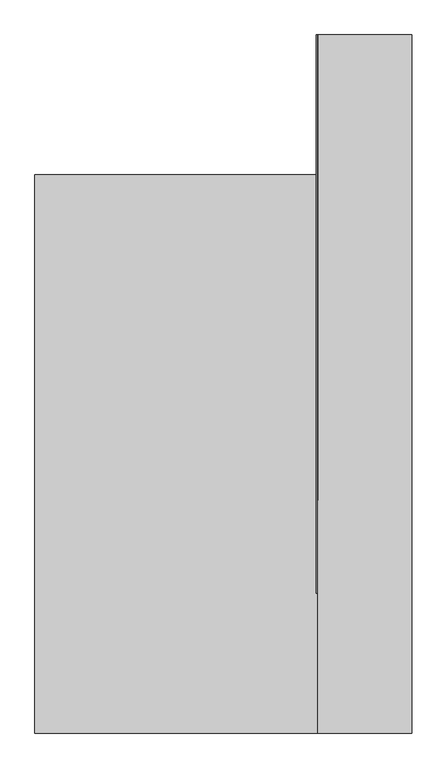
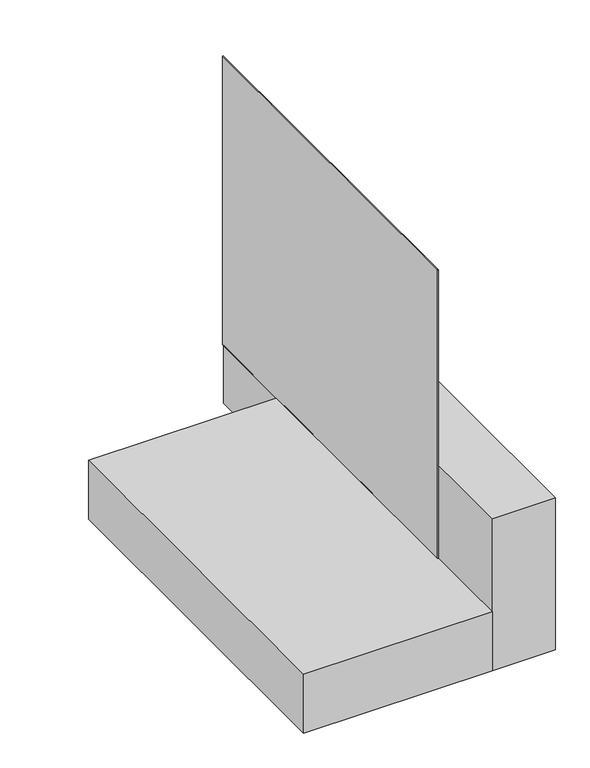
"""IFC4 building model written with IfcOpenShell, lengths in millimetres: proxy geometry, IMPER:IMPER:433934 : IMPER:IMPER:433934."""

from ifc_helpers import new_model, si_unit, point, frame, frame_2d, origin, place, context, project, spatial, polyline, circle_curve, trimmed, segment, composite_curve, outline, extrude, source, transform, mapped, element, save


def generic_models_d400f225(model_context):
    return source(origin(), model_context, "Body", "SweptSolid", [
        extrude(outline(polyline([(-346.9315394, -2854.1299805), (-1562.7804486, -2854.1299805), (-1562.7804486, -454.1299805), (-346.9315394, -454.1299805), (-346.9315394, -2854.1299805)])), frame((0.0, 0.0, -402.523798), z_axis=(0.0, 0.0, 1.0), x_axis=(1.0, 0.0, 0.0)), (0.0, 0.0, 1.0), 400.0),
        extrude(outline(polyline([(57.0408996, -2854.1299805), (-346.9315394, -2854.1299805), (-346.9315394, 145.8700195), (57.0408996, 145.8700195), (57.0408996, -2854.1299805)])), frame((0.0, 0.0, -402.523798), z_axis=(0.0, 0.0, 1.0), x_axis=(1.0, 0.0, 0.0)), (0.0, 0.0, 1.0), 1034.8744031),
        extrude(outline(composite_curve([segment(polyline([(1314.1648489, -349.8968024), (-2.523798, -349.8968024)]), True, "CONTINUOUS"), segment(trimmed(circle_curve(frame_2d((-2.523798, -339.8968024)), 10.0), [point((-2.523798, -349.8968024))], [point((-2.523798, -329.8968024))], False, "CARTESIAN"), True, "CONTINUOUS"), segment(trimmed(circle_curve(frame_2d((-2.523798, -336.4177782)), 6.5209758), [point((-2.523798, -329.8968024))], [point((-2.523798, -342.938754))], False, "CARTESIAN"), True, "CONTINUOUS"), segment(trimmed(circle_curve(frame_2d((-2.523798, -339.6782661)), 3.2604879), [point((-2.523798, -342.938754))], [point((-2.523798, -336.4177782))], False, "CARTESIAN"), True, "CONTINUOUS"), segment(polyline([(-2.523798, -336.4177782), (-2.523798, -339.4177782)]), True, "CONTINUOUS"), segment(trimmed(circle_curve(frame_2d((-2.523798, -339.6782661)), 0.2604879), [point((-2.523798, -339.4177782))], [point((-2.523798, -339.938754))], True, "CARTESIAN"), True, "CONTINUOUS"), segment(trimmed(circle_curve(frame_2d((-2.523798, -336.4177782)), 3.5209758), [point((-2.523798, -339.938754))], [point((-2.523798, -332.8968024))], True, "CARTESIAN"), True, "CONTINUOUS"), segment(trimmed(circle_curve(frame_2d((-2.523798, -339.8968024)), 7.0), [point((-2.523798, -332.8968024))], [point((-2.523798, -346.8968024))], True, "CARTESIAN"), True, "CONTINUOUS"), segment(polyline([(-2.523798, -346.8968024), (1314.1648489, -346.8968024), (1314.1648489, -349.8968024)]), True, "CONTINUOUS")], self_intersect=False)), frame((0.0, -1854.1299805, 0.0), z_axis=(0.0, 1.0, 0.0), x_axis=(0.0, 0.0, 1.0)), (0.0, 0.0, 1.0), 2000.0),
        extrude(outline(polyline([(-349.8968024, 145.8700195), (-349.8968024, -2254.1299805), (-353.8968024, -2254.1299805), (-353.8968024, 145.8700195), (-349.8968024, 145.8700195)])), frame((0.0, 0.0, -2.523798), z_axis=(0.0, 0.0, 1.0), x_axis=(1.0, 0.0, 0.0)), (0.0, 0.0, 1.0), 1965.7083629),
    ])


if __name__ == "__main__":
    model = new_model("IFC4")
    model_context = context("Model", 3, world=origin())
    ifc_project = project(units=[si_unit("LENGTHUNIT", "METRE", prefix="MILLI")], contexts=[model_context])
    site = spatial("IfcSite", under=ifc_project)
    building = spatial("IfcBuilding", under=site)
    placement = place(None, origin())
    generic_models_shape = generic_models_d400f225(model_context)
    element("IfcBuildingElementProxy", 1, Name="IMPER:IMPER:433934 : IMPER:IMPER:433934", ObjectType="IMPER:IMPER:433934 : IMPER:IMPER:433934", at=placement, inside=building, context=model_context, shape_type="MappedRepresentation", body=[
        mapped(generic_models_shape, transform((0.0, 0.0, 0.0), x_axis=(1.0, 0.0, 0.0), y_axis=(0.0, 1.0, 0.0), z_axis=(0.0, 0.0, 1.0))),
    ])
    save(model, "model.ifc")
